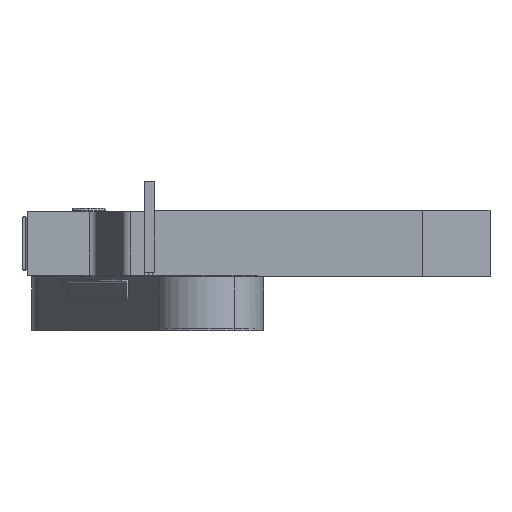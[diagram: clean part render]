
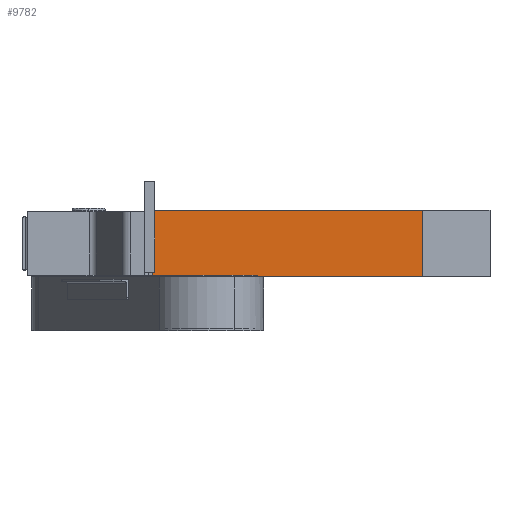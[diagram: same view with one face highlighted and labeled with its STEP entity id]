
A CAD part, left-side view. The second image highlights one B-rep face of the part: STEP entity #9782.
In plain terms, the highlighted planar face has unit normal (-1, 0, 0).
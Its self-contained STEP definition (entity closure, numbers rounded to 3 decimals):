
#1656 = FACE_OUTER_BOUND ( 'NONE', #10029, .T. ) ;
#2047 = VECTOR ( 'NONE', #14364, 1000. ) ;
#2410 = EDGE_CURVE ( 'NONE', #3172, #5574, #4285, .T. ) ;
#2507 = EDGE_CURVE ( 'NONE', #7141, #5069, #5843, .T. ) ;
#2640 = CARTESIAN_POINT ( 'NONE',  ( -53.13, -404.725, -40. ) ) ;
#2657 = AXIS2_PLACEMENT_3D ( 'NONE', #8893, #8705, #6070 ) ;
#3172 = VERTEX_POINT ( 'NONE', #9364 ) ;
#3804 = ORIENTED_EDGE ( 'NONE', *, *, #2410, .T. ) ;
#4285 = LINE ( 'NONE', #2640, #11219 ) ;
#4635 = PLANE ( 'NONE',  #2657 ) ;
#5069 = VERTEX_POINT ( 'NONE', #5450 ) ;
#5386 = DIRECTION ( 'NONE',  ( 0., -1., 0. ) ) ;
#5450 = CARTESIAN_POINT ( 'NONE',  ( -53.13, -76.7, 40. ) ) ;
#5457 = LINE ( 'NONE', #9564, #9268 ) ;
#5574 = VERTEX_POINT ( 'NONE', #9671 ) ;
#5843 = LINE ( 'NONE', #8521, #2047 ) ;
#6070 = DIRECTION ( 'NONE',  ( 0., -1., 0. ) ) ;
#7141 = VERTEX_POINT ( 'NONE', #17649 ) ;
#8521 = CARTESIAN_POINT ( 'NONE',  ( -53.13, -76.7, -40. ) ) ;
#8705 = DIRECTION ( 'NONE',  ( -1., 0., 0. ) ) ;
#8716 = ORIENTED_EDGE ( 'NONE', *, *, #13355, .F. ) ;
#8741 = ORIENTED_EDGE ( 'NONE', *, *, #2507, .F. ) ;
#8893 = CARTESIAN_POINT ( 'NONE',  ( -53.13, 0., -40. ) ) ;
#9268 = VECTOR ( 'NONE', #17952, 1000. ) ;
#9364 = CARTESIAN_POINT ( 'NONE',  ( -53.13, -404.725, -40. ) ) ;
#9564 = CARTESIAN_POINT ( 'NONE',  ( -53.13, 0., -40. ) ) ;
#9671 = CARTESIAN_POINT ( 'NONE',  ( -53.13, -404.725, 40. ) ) ;
#9751 = ORIENTED_EDGE ( 'NONE', *, *, #12213, .T. ) ;
#9782 = ADVANCED_FACE ( 'NONE', ( #1656 ), #4635, .T. ) ;
#10029 = EDGE_LOOP ( 'NONE', ( #8716, #8741, #9751, #3804 ) ) ;
#11219 = VECTOR ( 'NONE', #16726, 1000. ) ;
#12213 = EDGE_CURVE ( 'NONE', #7141, #3172, #5457, .T. ) ;
#13355 = EDGE_CURVE ( 'NONE', #5069, #5574, #13896, .T. ) ;
#13444 = VECTOR ( 'NONE', #5386, 1000. ) ;
#13896 = LINE ( 'NONE', #18079, #13444 ) ;
#14364 = DIRECTION ( 'NONE',  ( 0., 0., 1. ) ) ;
#16726 = DIRECTION ( 'NONE',  ( 0., 0., 1. ) ) ;
#17649 = CARTESIAN_POINT ( 'NONE',  ( -53.13, -76.7, -40. ) ) ;
#17952 = DIRECTION ( 'NONE',  ( 0., -1., 0. ) ) ;
#18079 = CARTESIAN_POINT ( 'NONE',  ( -53.13, 0., 40. ) ) ;
